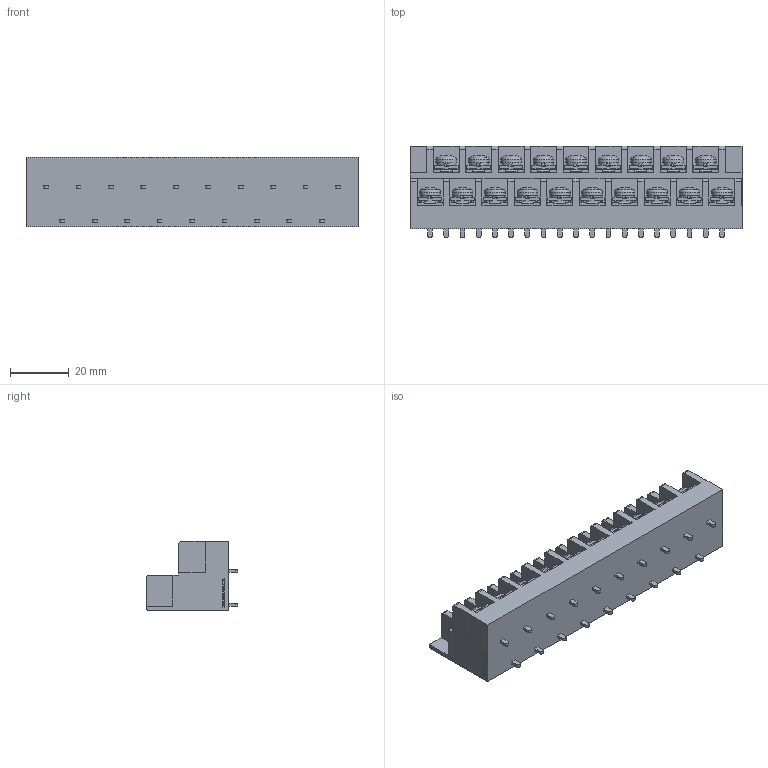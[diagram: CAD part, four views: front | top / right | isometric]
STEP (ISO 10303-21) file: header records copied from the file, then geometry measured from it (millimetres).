
FILE_DESCRIPTION(/* description */ ('Alibre Inc.'),/* implementation_level */ '2;1');
FILE_NAME(/* name */ 'export0',/* time_stamp */ '2016-08-06T14:18:43+09:00',/* author */ (''),/* organization */ (''),/* preprocessor_version */ 'ST-DEVELOPER v14',/* originating_system */ 'Alibre',/* authorisation */ '');
FILE_SCHEMA (('CONFIG_CONTROL_DESIGN'));
Length unit declared in the file: centimetre
Products named in the file (1): ID_1
Bounding box: 112.6 x 31 x 23.5 mm (x, y, z)
Volume: 47581 mm3; surface area: 22121.4 mm2
Topology: 1 solids, 161 shells, 3838 faces, 10040 edges, 6611 vertices
Faces by surface type: plane 2978, bspline 572, cylinder 155, cone 76, torus 38, sphere 19
Full cylindrical faces by diameter (mm): 4 x19, 7 x19
Entity records: 112059 total; most frequent: CARTESIAN_POINT 25646, ORIENTED_EDGE 20042, DIRECTION 12618, EDGE_CURVE 9945, VECTOR 7513, LINE 7513, VERTEX_POINT 6592, EDGE_LOOP 4157
